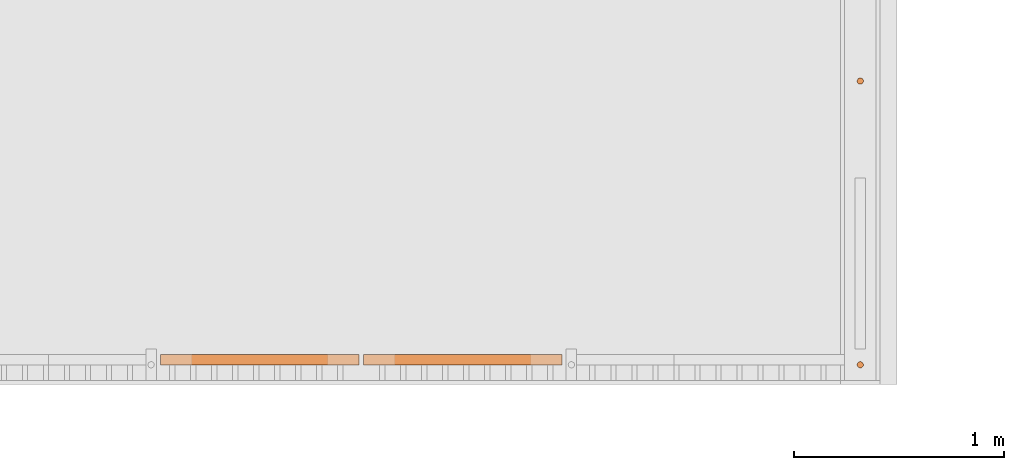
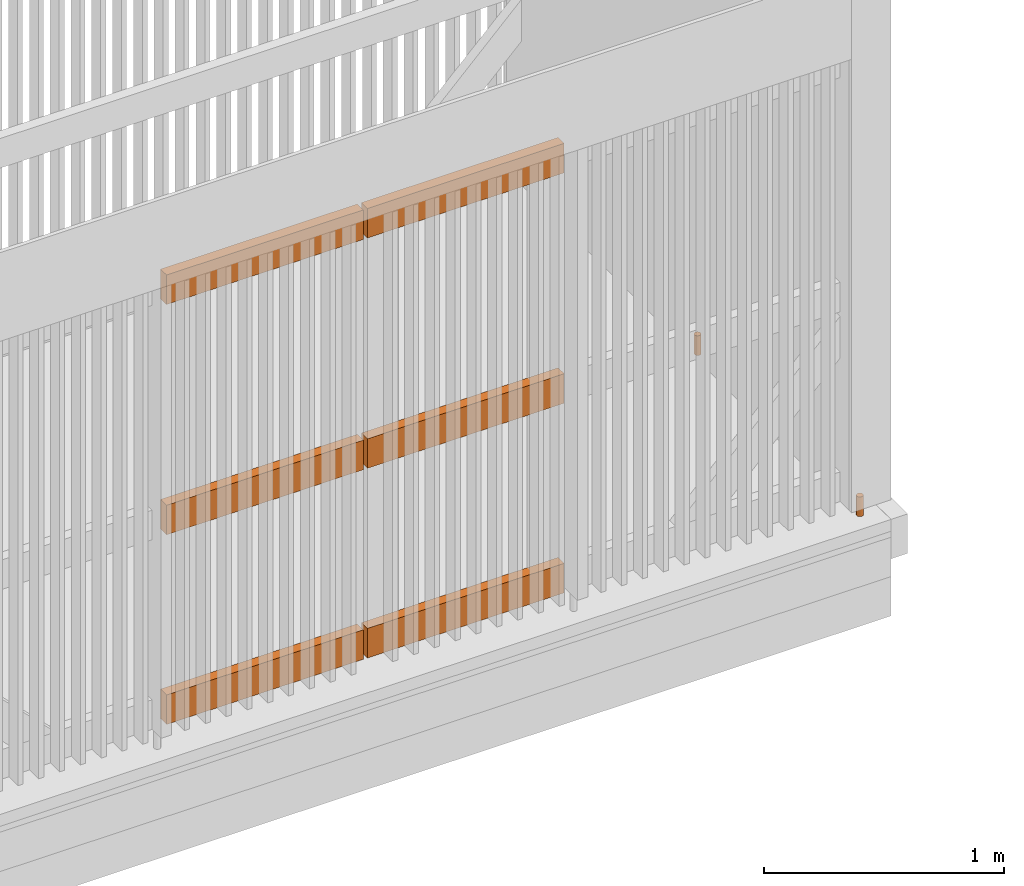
# One storey, part 367 of 418: 8 proxies.
"""IFC2X3 building model written with IfcOpenShell, lengths in millimetres."""

from ifc_helpers import new_model, entity, si_unit, converted_unit, derived_unit, money_unit, direction, frame, frame_2d, origin_with_axes, origin_2d_with_axis, place, context, subcontext, project, spatial, rectangle, circle, extrude, material, type_object, element, save


model = new_model("IFC2X3")

# Units and contexts
model_context = context("Model", 3, precision=0.01, world=origin_with_axes(), true_north=direction((0.0, 1.0)))
body_context = subcontext(model_context, "Body", "Model", "MODEL_VIEW")
ifc_project = project(units=[si_unit("LENGTHUNIT", "METRE", prefix="MILLI"), si_unit("AREAUNIT", "SQUARE_METRE"), si_unit("VOLUMEUNIT", "CUBIC_METRE"), converted_unit("PLANEANGLEUNIT", "DEGREE", entity("IfcPlaneAngleMeasure", 0.0174532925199), si_unit("PLANEANGLEUNIT", "RADIAN"), dimensions=[0, 0, 0, 0, 0, 0, 0]), si_unit("SOLIDANGLEUNIT", "STERADIAN"), money_unit("EUR"), converted_unit("TIMEUNIT", "Year", entity("IfcTimeMeasure", 31556926.0), si_unit("TIMEUNIT", "SECOND"), dimensions=[0, 0, 1, 0, 0, 0, 0]), si_unit("MASSUNIT", "GRAM", prefix="KILO"), si_unit("THERMODYNAMICTEMPERATUREUNIT", "DEGREE_CELSIUS"), si_unit("LUMINOUSINTENSITYUNIT", "LUMEN"), si_unit("ENERGYUNIT", "JOULE", prefix="MEGA"), derived_unit("THERMALCONDUCTANCEUNIT", [(si_unit("POWERUNIT", "WATT"), 1), (si_unit("LENGTHUNIT", "METRE"), -1), (si_unit("THERMODYNAMICTEMPERATUREUNIT", "KELVIN"), -1)]), derived_unit("SPECIFICHEATCAPACITYUNIT", [(si_unit("ENERGYUNIT", "JOULE"), 1), (si_unit("MASSUNIT", "GRAM", prefix="KILO"), -1), (si_unit("THERMODYNAMICTEMPERATUREUNIT", "KELVIN"), -1)]), derived_unit("MASSDENSITYUNIT", [(si_unit("MASSUNIT", "GRAM", prefix="KILO"), 1), (si_unit("VOLUMEUNIT", "CUBIC_METRE"), -1)])], contexts=[model_context])

# Site, building, storey
site_placement = place(None, origin_with_axes())
site = spatial("IfcSite", under=ifc_project, at=site_placement, Name="Paldiski mnt 245/1, Tallinn, Harjumaa", CompositionType="COMPLEX")
building_placement = place(site_placement, origin_with_axes())
building = spatial("IfcBuilding", under=site, at=building_placement, Name="RKAS Hoone üldnimetus (kasutust iseloomustav) -> IFC Project Manager -> SOLIBRI", CompositionType="ELEMENT")
storey_placement = place(building_placement, origin_with_axes())
storey = spatial("IfcBuildingStorey", under=building, at=storey_placement, Name="Esimene korrus", CompositionType="ELEMENT", Elevation=0.0)

# Proxies
ifc_material_1 = material(Name="Puit konstruktsioon")
building_element_proxy_type_1 = type_object("IfcBuildingElementProxyType", Name="Puit konstruktsioon 50 x 150", PredefinedType="NOTDEFINED")
for number, where, z_axis, x_axis, name in (
    (1, (-9609.27180125, 11269.7949578, 153.066690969), (0.0, 0.0, 1.0), (0.0, 1.0, 0.0), "Puitraam 50x150 mm"),
    (2, (-9609.27180125, 11269.7949578, 1322.59465133), (0.0, 0.0, 1.0), (0.0, 1.0, 0.0), "Puitraam 50x150 mm"),
    (3, (-9589.27180125, 11269.7949578, 153.066690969), (0.0, 0.0, 1.0), (0.0, -1.0, 0.0), "Puitraam 50x150 mm"),
    (4, (-9589.27180125, 11269.7949578, 1322.59465133), (0.0, 0.0, 1.0), (0.0, -1.0, 0.0), "Puitraam 50x150 mm"),
    (5, (-9589.27180125, 11269.7949578, -810.0), (0.0, 0.0, 1.0), (0.0, -1.0, 0.0), "Puitraam 50x150 mm"),
    (6, (-9609.27180125, 11269.7949578, -810.0), (0.0, 0.0, 1.0), (0.0, 1.0, 0.0), "Puitraam 50x150 mm"),
):
    element("IfcBuildingElementProxy", number, at=place(storey_placement, frame(where, z_axis=z_axis, x_axis=x_axis)), inside=storey, type_object=building_element_proxy_type_1, material=ifc_material_1, Name=name, context=body_context, shape_type="SweptSolid", body=[
        extrude(rectangle(XDim=150.0, YDim=50.0, at=frame_2d((-75.0, 0.0), x_axis=(1.0, 0.0))), frame((0.0, 0.0, 0.0), z_axis=(0.0, 1.0, 0.0), x_axis=(0.0, 0.0, 1.0)), (0.0, 0.0, 1.0), 945.0),
    ])
ifc_material_2 = material(Name="ET-03_Raud")
building_element_proxy_type_2 = type_object("IfcBuildingElementProxyType", Name="ET-03_Raud D30", PredefinedType="NOTDEFINED")
for number, where, z_axis, x_axis in (
    (7, (-7224.27180125, 12594.7949578, -1060.0), (0.0, 0.0, 1.0), (-1.0, 0.0, 0.0)),
    (8, (-7224.27180125, 11244.7949578, -1060.0), (0.0, 0.0, 1.0), (-1.0, 0.0, 0.0)),
):
    element("IfcBuildingElementProxy", number, at=place(storey_placement, frame(where, z_axis=z_axis, x_axis=x_axis)), inside=storey, type_object=building_element_proxy_type_2, material=ifc_material_2, Name="Terasking", context=body_context, shape_type="SweptSolid", body=[
        extrude(circle(Radius=15.0, at=origin_2d_with_axis()), origin_with_axes(), (0.0, 0.0, 1.0), 100.0),
    ])

save(model, "model.ifc")
